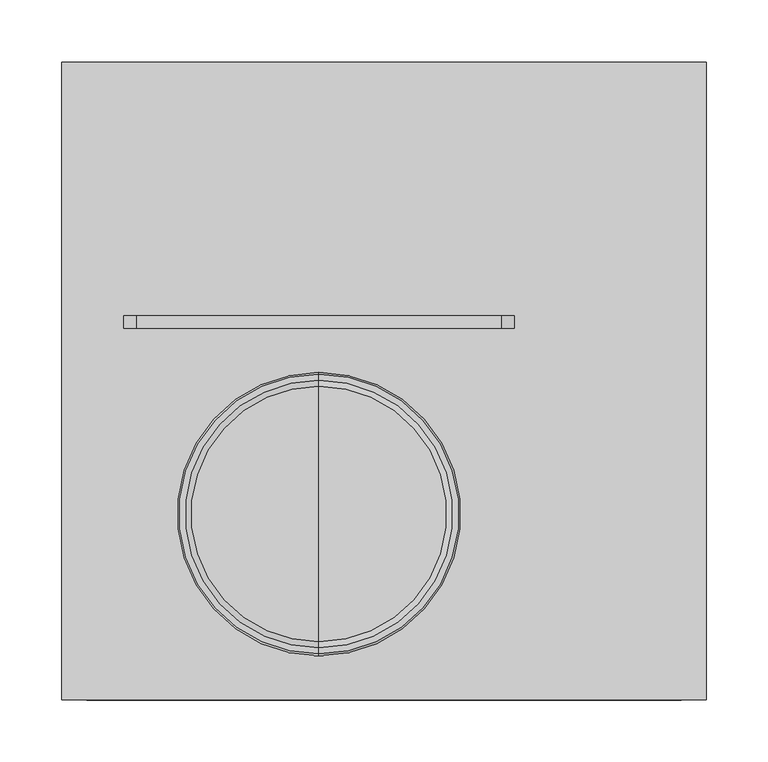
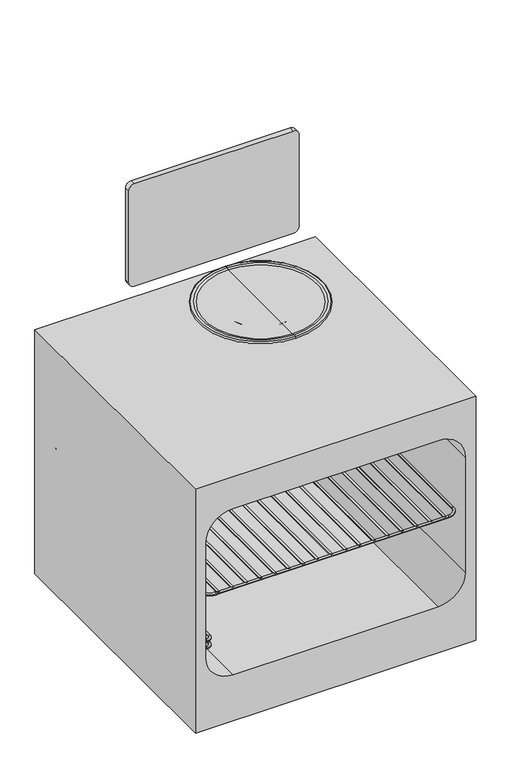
"""IFC4 building model written with IfcOpenShell, lengths in millimetres: proxy geometry, Horno_-_Microondas__Oven_-_Microwave_16796 : Horno_-_Microondas__Oven_-_Microwave_16796."""

from ifc_helpers import new_model, si_unit, point, frame, frame_2d, origin, place, context, project, spatial, polyline, circle_curve, ellipse_curve, trimmed, segment, composite_curve, outline, extrude, source, transform, mapped, element, save
from ifc_brep_helpers import plane_surface, cylinder_surface, revolved_surface, advanced_brep


def specialty_equipment_b5bd31df(model_context):
    return source(origin(), model_context, "Body", "SolidModel", [
        advanced_brep(
        [(-52.5, 215.0, 692.0), (-52.5, 95.0, 692.0), (-52.5, 155.0, 692.0), (-52.5, 155.0, 700.2581577), (-52.5, 51.9312725, 700.2581577), (-52.5, 258.0687275, 700.2581577), (-52.5, 47.1016434, 701.552253), (-52.5, 262.8983566, 701.552253), (-52.5, 42.1016434, 701.552253), (-52.5, 267.8983566, 701.552253), (-52.5, 42.1016434, 697.6923638), (-52.5, 267.8983566, 697.6923638), (-52.5, 50.1510419, 695.5355339), (-52.5, 259.8489581, 695.5355339), (-52.5, 87.0590608, 695.5355339), (-52.5, 222.9409392, 695.5355339)],
        [
            (0, 1, circle_curve(frame((-52.5, 155.0, 692.0), z_axis=(0.0, 0.0, -1.0), x_axis=(0.0, -1.0, 0.0)), 60.0)),
            (1, 2),
            (2, 0),
            (1, 0, circle_curve(frame((-52.5, 155.0, 692.0), z_axis=(0.0, 0.0, -1.0), x_axis=(0.0, -1.0, 0.0)), 60.0)),
            (3, 4),
            (4, 5, circle_curve(frame((-52.5, 155.0, 700.2581577), z_axis=(0.0, 0.0, 1.0), x_axis=(0.0, -1.0, 0.0)), 103.0687275)),
            (5, 3),
            (5, 4, circle_curve(frame((-52.5, 155.0, 700.2581577), z_axis=(0.0, 0.0, 1.0), x_axis=(0.0, -1.0, 0.0)), 103.0687275)),
            (4, 6),
            (6, 7, circle_curve(frame((-52.5, 155.0, 701.552253), z_axis=(0.0, 0.0, 1.0), x_axis=(0.0, -1.0, 0.0)), 107.8983566)),
            (7, 5),
            (7, 6, circle_curve(frame((-52.5, 155.0, 701.552253), z_axis=(0.0, 0.0, 1.0), x_axis=(0.0, -1.0, 0.0)), 107.8983566)),
            (6, 8),
            (8, 9, circle_curve(frame((-52.5, 155.0, 701.552253), z_axis=(0.0, 0.0, 1.0), x_axis=(0.0, -1.0, 0.0)), 112.8983566)),
            (9, 7),
            (9, 8, circle_curve(frame((-52.5, 155.0, 701.552253), z_axis=(0.0, 0.0, 1.0), x_axis=(0.0, -1.0, 0.0)), 112.8983566)),
            (8, 10, circle_curve(frame((-52.5, 42.6187705, 699.6223084), z_axis=(1.0, 0.0, 0.0), x_axis=(0.0, 1.0, 0.0)), 1.9980257)),
            (10, 11, circle_curve(frame((-52.5, 155.0, 697.6923638), z_axis=(0.0, 0.0, 1.0), x_axis=(0.0, -1.0, 0.0)), 112.8983566)),
            (11, 9, circle_curve(frame((-52.5, 267.3812295, 699.6223084), z_axis=(1.0, 0.0, 0.0), x_axis=(0.0, -1.0, 0.0)), 1.9980257)),
            (11, 10, circle_curve(frame((-52.5, 155.0, 697.6923638), z_axis=(0.0, 0.0, 1.0), x_axis=(0.0, -1.0, 0.0)), 112.8983566)),
            (10, 12),
            (12, 13, circle_curve(frame((-52.5, 155.0, 695.5355339), z_axis=(0.0, 0.0, 1.0), x_axis=(0.0, -1.0, 0.0)), 104.8489581)),
            (13, 11),
            (13, 12, circle_curve(frame((-52.5, 155.0, 695.5355339), z_axis=(0.0, 0.0, 1.0), x_axis=(0.0, -1.0, 0.0)), 104.8489581)),
            (12, 14),
            (14, 15, circle_curve(frame((-52.5, 155.0, 695.5355339), z_axis=(0.0, 0.0, 1.0), x_axis=(0.0, -1.0, 0.0)), 67.9409392)),
            (15, 13),
            (15, 14, circle_curve(frame((-52.5, 155.0, 695.5355339), z_axis=(0.0, 0.0, 1.0), x_axis=(0.0, -1.0, 0.0)), 67.9409392)),
            (14, 1, circle_curve(frame((-52.5, 86.7283772, 684.1072186), z_axis=(-1.0, 0.0, 0.0), x_axis=(0.0, 1.0, 0.0)), 11.4330986)),
            (0, 15, circle_curve(frame((-52.5, 223.2716228, 684.1072186), z_axis=(-1.0, 0.0, 0.0), x_axis=(0.0, -1.0, 0.0)), 11.4330986)),
        ],
        [
            plane_surface(frame((-52.5, 155.0, 692.0), z_axis=(0.0, 0.0, -1.0), x_axis=(0.0, -1.0, 0.0))),
            plane_surface(frame((-52.5, 155.0, 700.2581577), z_axis=(0.0, 0.0, 1.0), x_axis=(0.0, -1.0, 0.0))),
            revolved_surface(polyline([(-52.5, 47.1016434, 701.552253), (-52.5, 51.9312725, 700.2581577)]), (-52.5, 155.0, 912.0), (0.0, 0.0, 1.0)),
            plane_surface(frame((-52.5, 155.0, 701.552253), z_axis=(0.0, 0.0, 1.0), x_axis=(0.0, -1.0, 0.0))),
            revolved_surface(trimmed(ellipse_curve(frame((-52.5, 42.6187705, 699.6223084), z_axis=(-1.0, 0.0, 0.0), x_axis=(0.0, 1.0, 0.0)), 1.9980257, 1.9980257), [point((-52.5, 42.1016434, 697.6923638))], [point((-52.5, 42.1016434, 701.552253))], True, "CARTESIAN"), (-52.5, 155.0, 912.0), (0.0, 0.0, 1.0)),
            revolved_surface(polyline([(-52.5, 50.1510419, 695.5355339), (-52.5, 42.1016434, 697.6923638)]), (-52.5, 155.0, 912.0), (0.0, 0.0, 1.0)),
            plane_surface(frame((-52.5, 155.0, 695.5355339), z_axis=(0.0, 0.0, -1.0), x_axis=(0.0, -1.0, 0.0))),
            revolved_surface(trimmed(ellipse_curve(frame((-52.5, 86.7283772, 684.1072186), z_axis=(1.0, 0.0, 0.0), x_axis=(0.0, 1.0, 0.0)), 11.4330986, 11.4330986), [point((-52.5, 95.0, 692.0))], [point((-52.5, 87.0590608, 695.5355339))], True, "CARTESIAN"), (-52.5, 155.0, 912.0), (0.0, 0.0, 1.0)),
        ],
        [
            (0, [[1, 2, 3]]),
            (0, [[4, -3, -2]]),
            (1, [[5, 6, 7]]),
            (1, [[-7, 8, -5]]),
            (2, [[-6, 9, 10, 11]]),
            (2, [[-8, -11, 12, -9]]),
            (3, [[-10, 13, 14, 15]]),
            (3, [[-12, -15, 16, -13]]),
            (4, [[-14, 17, 18, 19]]),
            (4, [[-16, -19, 20, -17]]),
            (5, [[-18, 21, 22, 23]]),
            (5, [[-20, -23, 24, -21]]),
            (6, [[-22, 25, 26, 27]]),
            (6, [[-24, -27, 28, -25]]),
            (7, [[-26, 29, -1, 30]]),
            (7, [[-28, -30, -4, -29]]),
        ],
    ),
        extrude(outline(composite_curve([segment(trimmed(circle_curve(frame_2d((882.0, -200.0)), 10.0), [point((892.0, -200.0))], [point((882.0, -210.0))], False, "CARTESIAN"), True, "CONTINUOUS"), segment(polyline([(882.0, -210.0), (702.0, -210.0)]), True, "CONTINUOUS"), segment(trimmed(circle_curve(frame_2d((702.0, -200.0)), 10.0), [point((702.0, -210.0))], [point((692.0, -200.0))], False, "CARTESIAN"), True, "CONTINUOUS"), segment(polyline([(692.0, -200.0), (692.0, 95.0)]), True, "CONTINUOUS"), segment(trimmed(circle_curve(frame_2d((702.0, 95.0)), 10.0), [point((692.0, 95.0))], [point((702.0, 105.0))], False, "CARTESIAN"), True, "CONTINUOUS"), segment(polyline([(702.0, 105.0), (882.0, 105.0)]), True, "CONTINUOUS"), segment(trimmed(circle_curve(frame_2d((882.0, 95.0)), 10.0), [point((882.0, 105.0))], [point((892.0, 95.0))], False, "CARTESIAN"), True, "CONTINUOUS"), segment(polyline([(892.0, 95.0), (892.0, -200.0)]), True, "CONTINUOUS")], self_intersect=False)), frame((0.0, 305.0, 0.0), z_axis=(0.0, 1.0, 0.0), x_axis=(0.0, 0.0, 1.0)), (0.0, 0.0, 1.0), 10.0),
        extrude(outline(polyline([(20.0, 260.0), (497.0, 260.0), (497.0, -260.0), (20.0, -260.0), (20.0, 260.0)]), holes=[composite_curve([segment(polyline([(160.0, -240.0), (385.0, -240.0)]), True, "CONTINUOUS"), segment(trimmed(circle_curve(frame_2d((385.0, -190.0)), 50.0), [point((385.0, -240.0))], [point((435.0, -190.0))], True, "CARTESIAN"), True, "CONTINUOUS"), segment(polyline([(435.0, -190.0), (435.0, 190.0)]), True, "CONTINUOUS"), segment(trimmed(circle_curve(frame_2d((385.0, 190.0)), 50.0), [point((435.0, 190.0))], [point((385.0, 240.0))], True, "CARTESIAN"), True, "CONTINUOUS"), segment(polyline([(385.0, 240.0), (160.0, 240.0)]), True, "CONTINUOUS"), segment(trimmed(circle_curve(frame_2d((160.0, 190.0)), 50.0), [point((160.0, 240.0))], [point((110.0, 190.0))], True, "CARTESIAN"), True, "CONTINUOUS"), segment(polyline([(110.0, 190.0), (110.0, -190.0)]), True, "CONTINUOUS"), segment(trimmed(circle_curve(frame_2d((160.0, -190.0)), 50.0), [point((110.0, -190.0))], [point((160.0, -240.0))], True, "CARTESIAN"), True, "CONTINUOUS")], self_intersect=False)]), frame((0.0, 5.0, 0.0), z_axis=(0.0, 1.0, 0.0), x_axis=(0.0, 0.0, 1.0)), (0.0, 0.0, 1.0), 515.0),
        extrude(outline(composite_curve([segment(trimmed(circle_curve(frame_2d((160.0, -190.0)), 50.0), [point((160.0, -240.0))], [point((110.0, -190.0))], False, "CARTESIAN"), True, "CONTINUOUS"), segment(polyline([(110.0, -190.0), (110.0, 190.0)]), True, "CONTINUOUS"), segment(trimmed(circle_curve(frame_2d((160.0, 190.0)), 50.0), [point((110.0, 190.0))], [point((160.0, 240.0))], False, "CARTESIAN"), True, "CONTINUOUS"), segment(polyline([(160.0, 240.0), (385.0, 240.0)]), True, "CONTINUOUS"), segment(trimmed(circle_curve(frame_2d((385.0, 190.0)), 50.0), [point((385.0, 240.0))], [point((435.0, 190.0))], False, "CARTESIAN"), True, "CONTINUOUS"), segment(polyline([(435.0, 190.0), (435.0, -190.0)]), True, "CONTINUOUS"), segment(trimmed(circle_curve(frame_2d((385.0, -190.0)), 50.0), [point((435.0, -190.0))], [point((385.0, -240.0))], False, "CARTESIAN"), True, "CONTINUOUS"), segment(polyline([(385.0, -240.0), (160.0, -240.0)]), True, "CONTINUOUS")], self_intersect=False), holes=[composite_curve([segment(trimmed(circle_curve(frame_2d((272.0, 0.0)), 60.0), [point((272.0, -60.0))], [point((272.0, 60.0))], True, "CARTESIAN"), True, "CONTINUOUS"), segment(trimmed(circle_curve(frame_2d((272.0, 0.0)), 60.0), [point((272.0, 60.0))], [point((272.0, -60.0))], True, "CARTESIAN"), True, "CONTINUOUS")], self_intersect=False)]), frame((0.0, 515.0, 0.0), z_axis=(0.0, 1.0, 0.0), x_axis=(0.0, 0.0, 1.0)), (0.0, 0.0, 1.0), 5.0),
        extrude(outline(composite_curve([segment(trimmed(circle_curve(frame_2d((272.0, 0.0)), 58.0), [point((272.0, -58.0))], [point((272.0, 58.0))], False, "CARTESIAN"), True, "CONTINUOUS"), segment(trimmed(circle_curve(frame_2d((272.0, 0.0)), 58.0), [point((272.0, 58.0))], [point((272.0, -58.0))], False, "CARTESIAN"), True, "CONTINUOUS")], self_intersect=False), holes=[composite_curve([segment(trimmed(circle_curve(frame_2d((272.0, 0.0)), 40.0), [point((272.0, -40.0))], [point((272.0, 40.0))], True, "CARTESIAN"), True, "CONTINUOUS"), segment(trimmed(circle_curve(frame_2d((272.0, 0.0)), 40.0), [point((272.0, 40.0))], [point((272.0, -40.0))], True, "CARTESIAN"), True, "CONTINUOUS")], self_intersect=False)]), frame((0.0, 515.0, 0.0), z_axis=(0.0, 1.0, 0.0), x_axis=(0.0, 0.0, 1.0)), (0.0, 0.0, 1.0), 5.0),
        extrude(outline(composite_curve([segment(polyline([(234.0131602, -1.0), (244.0178628, -1.0)]), True, "CONTINUOUS"), segment(trimmed(circle_curve(frame_2d((272.0, 0.0)), 28.0), [point((244.0178628, -1.0))], [point((251.5065343, -19.0792522))], True, "CARTESIAN"), True, "CONTINUOUS"), segment(polyline([(251.5065343, -19.0792522), (244.4321412, -26.1536453)]), True, "CONTINUOUS"), segment(trimmed(circle_curve(frame_2d((272.0, 0.0)), 38.0), [point((244.4321412, -26.1536453))], [point((234.0131602, -1.0))], False, "CARTESIAN"), True, "CONTINUOUS")], self_intersect=False)), frame((0.0, 515.0, 0.0), z_axis=(0.0, 1.0, 0.0), x_axis=(0.0, 0.0, 1.0)), (0.0, 0.0, 1.0), 5.0),
        extrude(outline(composite_curve([segment(trimmed(circle_curve(frame_2d((272.0, 0.0)), 28.0), [point((299.9821372, 1.0))], [point((292.4934657, 19.0792522))], True, "CARTESIAN"), True, "CONTINUOUS"), segment(polyline([(292.4934657, 19.0792522), (299.5678588, 26.1536453)]), True, "CONTINUOUS"), segment(trimmed(circle_curve(frame_2d((272.0, 0.0)), 38.0), [point((299.5678588, 26.1536453))], [point((309.9868398, 1.0))], False, "CARTESIAN"), True, "CONTINUOUS"), segment(polyline([(309.9868398, 1.0), (299.9821372, 1.0)]), True, "CONTINUOUS")], self_intersect=False)), frame((0.0, 515.0, 0.0), z_axis=(0.0, 1.0, 0.0), x_axis=(0.0, 0.0, 1.0)), (0.0, 0.0, 1.0), 5.0),
        extrude(outline(composite_curve([segment(polyline([(246.0192379, -1.0), (269.5857864, -1.0), (252.9217201, -17.6640663)]), True, "CONTINUOUS"), segment(trimmed(circle_curve(frame_2d((272.0, 0.0)), 26.0), [point((252.9217201, -17.6640663))], [point((246.0192379, -1.0))], False, "CARTESIAN"), True, "CONTINUOUS")], self_intersect=False)), frame((0.0, 515.0, 0.0), z_axis=(0.0, 1.0, 0.0), x_axis=(0.0, 0.0, 1.0)), (0.0, 0.0, 1.0), 5.0),
        extrude(outline(composite_curve([segment(trimmed(circle_curve(frame_2d((272.0, 0.0)), 28.0), [point((273.0, -27.9821372))], [point((291.0792522, -20.4934657))], True, "CARTESIAN"), True, "CONTINUOUS"), segment(polyline([(291.0792522, -20.4934657), (298.1536453, -27.5678588)]), True, "CONTINUOUS"), segment(trimmed(circle_curve(frame_2d((272.0, 0.0)), 38.0), [point((298.1536453, -27.5678588))], [point((273.0, -37.9868398))], False, "CARTESIAN"), True, "CONTINUOUS"), segment(polyline([(273.0, -37.9868398), (273.0, -27.9821372)]), True, "CONTINUOUS")], self_intersect=False)), frame((0.0, 515.0, 0.0), z_axis=(0.0, 1.0, 0.0), x_axis=(0.0, 0.0, 1.0)), (0.0, 0.0, 1.0), 5.0),
        extrude(outline(composite_curve([segment(polyline([(271.0, -27.9821372), (271.0, -37.9868398)]), True, "CONTINUOUS"), segment(trimmed(circle_curve(frame_2d((272.0, 0.0)), 38.0), [point((271.0, -37.9868398))], [point((245.8463547, -27.5678588))], False, "CARTESIAN"), True, "CONTINUOUS"), segment(polyline([(245.8463547, -27.5678588), (252.9207478, -20.4934657)]), True, "CONTINUOUS"), segment(trimmed(circle_curve(frame_2d((272.0, 0.0)), 28.0), [point((252.9207478, -20.4934657))], [point((271.0, -27.9821372))], True, "CARTESIAN"), True, "CONTINUOUS")], self_intersect=False)), frame((0.0, 515.0, 0.0), z_axis=(0.0, 1.0, 0.0), x_axis=(0.0, 0.0, 1.0)), (0.0, 0.0, 1.0), 5.0),
        extrude(outline(composite_curve([segment(polyline([(289.6640663, 19.0782799), (273.0, 2.4142136), (273.0, 25.9807621)]), True, "CONTINUOUS"), segment(trimmed(circle_curve(frame_2d((272.0, 0.0)), 26.0), [point((273.0, 25.9807621))], [point((289.6640663, 19.0782799))], False, "CARTESIAN"), True, "CONTINUOUS")], self_intersect=False)), frame((0.0, 515.0, 0.0), z_axis=(0.0, 1.0, 0.0), x_axis=(0.0, 0.0, 1.0)), (0.0, 0.0, 1.0), 5.0),
        extrude(outline(composite_curve([segment(trimmed(circle_curve(frame_2d((272.0, 0.0)), 26.0), [point((291.0782799, 17.6640663))], [point((297.9807621, 1.0))], False, "CARTESIAN"), True, "CONTINUOUS"), segment(polyline([(297.9807621, 1.0), (274.4142136, 1.0), (291.0782799, 17.6640663)]), True, "CONTINUOUS")], self_intersect=False)), frame((0.0, 515.0, 0.0), z_axis=(0.0, 1.0, 0.0), x_axis=(0.0, 0.0, 1.0)), (0.0, 0.0, 1.0), 5.0),
        extrude(outline(composite_curve([segment(polyline([(252.9207478, 20.4934657), (245.8463547, 27.5678588)]), True, "CONTINUOUS"), segment(trimmed(circle_curve(frame_2d((272.0, 0.0)), 38.0), [point((245.8463547, 27.5678588))], [point((271.0, 37.9868398))], False, "CARTESIAN"), True, "CONTINUOUS"), segment(polyline([(271.0, 37.9868398), (271.0, 27.9821372)]), True, "CONTINUOUS"), segment(trimmed(circle_curve(frame_2d((272.0, 0.0)), 28.0), [point((271.0, 27.9821372))], [point((252.9207478, 20.4934657))], True, "CARTESIAN"), True, "CONTINUOUS")], self_intersect=False)), frame((0.0, 515.0, 0.0), z_axis=(0.0, 1.0, 0.0), x_axis=(0.0, 0.0, 1.0)), (0.0, 0.0, 1.0), 5.0),
        extrude(outline(composite_curve([segment(trimmed(circle_curve(frame_2d((272.0, 0.0)), 28.0), [point((251.5065343, 19.0792522))], [point((244.0178628, 1.0))], True, "CARTESIAN"), True, "CONTINUOUS"), segment(polyline([(244.0178628, 1.0), (234.0131602, 1.0)]), True, "CONTINUOUS"), segment(trimmed(circle_curve(frame_2d((272.0, 0.0)), 38.0), [point((234.0131602, 1.0))], [point((244.4321412, 26.1536453))], False, "CARTESIAN"), True, "CONTINUOUS"), segment(polyline([(244.4321412, 26.1536453), (251.5065343, 19.0792522)]), True, "CONTINUOUS")], self_intersect=False)), frame((0.0, 515.0, 0.0), z_axis=(0.0, 1.0, 0.0), x_axis=(0.0, 0.0, 1.0)), (0.0, 0.0, 1.0), 5.0),
        extrude(outline(composite_curve([segment(polyline([(271.0, 25.9807621), (271.0, 2.4142136), (254.3359337, 19.0782799)]), True, "CONTINUOUS"), segment(trimmed(circle_curve(frame_2d((272.0, 0.0)), 26.0), [point((254.3359337, 19.0782799))], [point((271.0, 25.9807621))], False, "CARTESIAN"), True, "CONTINUOUS")], self_intersect=False)), frame((0.0, 515.0, 0.0), z_axis=(0.0, 1.0, 0.0), x_axis=(0.0, 0.0, 1.0)), (0.0, 0.0, 1.0), 5.0),
        extrude(outline(composite_curve([segment(polyline([(291.0782799, -17.6640663), (274.4142136, -1.0), (297.9807621, -1.0)]), True, "CONTINUOUS"), segment(trimmed(circle_curve(frame_2d((272.0, 0.0)), 26.0), [point((297.9807621, -1.0))], [point((291.0782799, -17.6640663))], False, "CARTESIAN"), True, "CONTINUOUS")], self_intersect=False)), frame((0.0, 515.0, 0.0), z_axis=(0.0, 1.0, 0.0), x_axis=(0.0, 0.0, 1.0)), (0.0, 0.0, 1.0), 5.0),
        extrude(outline(composite_curve([segment(trimmed(circle_curve(frame_2d((272.0, 0.0)), 26.0), [point((246.0192379, 1.0))], [point((252.9217201, 17.6640663))], False, "CARTESIAN"), True, "CONTINUOUS"), segment(polyline([(252.9217201, 17.6640663), (269.5857864, 1.0), (246.0192379, 1.0)]), True, "CONTINUOUS")], self_intersect=False)), frame((0.0, 515.0, 0.0), z_axis=(0.0, 1.0, 0.0), x_axis=(0.0, 0.0, 1.0)), (0.0, 0.0, 1.0), 5.0),
        extrude(outline(composite_curve([segment(trimmed(circle_curve(frame_2d((272.0, 0.0)), 26.0), [point((289.6640663, -19.0782799))], [point((273.0, -25.9807621))], False, "CARTESIAN"), True, "CONTINUOUS"), segment(polyline([(273.0, -25.9807621), (273.0, -2.4142136), (289.6640663, -19.0782799)]), True, "CONTINUOUS")], self_intersect=False)), frame((0.0, 515.0, 0.0), z_axis=(0.0, 1.0, 0.0), x_axis=(0.0, 0.0, 1.0)), (0.0, 0.0, 1.0), 5.0),
        extrude(outline(composite_curve([segment(polyline([(299.9821372, -1.0), (309.9868398, -1.0)]), True, "CONTINUOUS"), segment(trimmed(circle_curve(frame_2d((272.0, 0.0)), 38.0), [point((309.9868398, -1.0))], [point((299.5678588, -26.1536453))], False, "CARTESIAN"), True, "CONTINUOUS"), segment(polyline([(299.5678588, -26.1536453), (292.4934657, -19.0792522)]), True, "CONTINUOUS"), segment(trimmed(circle_curve(frame_2d((272.0, 0.0)), 28.0), [point((292.4934657, -19.0792522))], [point((299.9821372, -1.0))], True, "CARTESIAN"), True, "CONTINUOUS")], self_intersect=False)), frame((0.0, 515.0, 0.0), z_axis=(0.0, 1.0, 0.0), x_axis=(0.0, 0.0, 1.0)), (0.0, 0.0, 1.0), 5.0),
        extrude(outline(composite_curve([segment(polyline([(298.1536453, 27.5678588), (291.0792522, 20.4934657)]), True, "CONTINUOUS"), segment(trimmed(circle_curve(frame_2d((272.0, 0.0)), 28.0), [point((291.0792522, 20.4934657))], [point((273.0, 27.9821372))], True, "CARTESIAN"), True, "CONTINUOUS"), segment(polyline([(273.0, 27.9821372), (273.0, 37.9868398)]), True, "CONTINUOUS"), segment(trimmed(circle_curve(frame_2d((272.0, 0.0)), 38.0), [point((273.0, 37.9868398))], [point((298.1536453, 27.5678588))], False, "CARTESIAN"), True, "CONTINUOUS")], self_intersect=False)), frame((0.0, 515.0, 0.0), z_axis=(0.0, 1.0, 0.0), x_axis=(0.0, 0.0, 1.0)), (0.0, 0.0, 1.0), 5.0),
        extrude(outline(composite_curve([segment(polyline([(254.3359337, -19.0782799), (271.0, -2.4142136), (271.0, -25.9807621)]), True, "CONTINUOUS"), segment(trimmed(circle_curve(frame_2d((272.0, 0.0)), 26.0), [point((271.0, -25.9807621))], [point((254.3359337, -19.0782799))], False, "CARTESIAN"), True, "CONTINUOUS")], self_intersect=False)), frame((0.0, 515.0, 0.0), z_axis=(0.0, 1.0, 0.0), x_axis=(0.0, 0.0, 1.0)), (0.0, 0.0, 1.0), 5.0),
        extrude(outline(composite_curve([segment(trimmed(circle_curve(frame_2d((270.1941764, -209.7777778)), 2.0), [point((270.1941764, -211.7777778))], [point((270.1941764, -207.7777778))], False, "CARTESIAN"), True, "CONTINUOUS"), segment(trimmed(circle_curve(frame_2d((270.1941764, -209.7777778)), 2.0), [point((270.1941764, -207.7777778))], [point((270.1941764, -211.7777778))], False, "CARTESIAN"), True, "CONTINUOUS")], self_intersect=False)), frame((0.0, 16.6373781, 0.0), z_axis=(0.0, 1.0, 0.0), x_axis=(0.0, 0.0, 1.0)), (0.0, 0.0, 1.0), 491.5234434),
        extrude(outline(composite_curve([segment(trimmed(circle_curve(frame_2d((270.1941764, -183.5555556)), 2.0), [point((270.1941764, -185.5555556))], [point((270.1941764, -181.5555556))], False, "CARTESIAN"), True, "CONTINUOUS"), segment(trimmed(circle_curve(frame_2d((270.1941764, -183.5555556)), 2.0), [point((270.1941764, -181.5555556))], [point((270.1941764, -185.5555556))], False, "CARTESIAN"), True, "CONTINUOUS")], self_intersect=False)), frame((0.0, 16.6373781, 0.0), z_axis=(0.0, 1.0, 0.0), x_axis=(0.0, 0.0, 1.0)), (0.0, 0.0, 1.0), 491.5234434),
        extrude(outline(composite_curve([segment(trimmed(circle_curve(frame_2d((270.1941764, -157.3333333)), 2.0), [point((270.1941764, -159.3333333))], [point((270.1941764, -155.3333333))], False, "CARTESIAN"), True, "CONTINUOUS"), segment(trimmed(circle_curve(frame_2d((270.1941764, -157.3333333)), 2.0), [point((270.1941764, -155.3333333))], [point((270.1941764, -159.3333333))], False, "CARTESIAN"), True, "CONTINUOUS")], self_intersect=False)), frame((0.0, 16.6373781, 0.0), z_axis=(0.0, 1.0, 0.0), x_axis=(0.0, 0.0, 1.0)), (0.0, 0.0, 1.0), 491.5234434),
        extrude(outline(composite_curve([segment(trimmed(circle_curve(frame_2d((270.1941764, -131.1111111)), 2.0), [point((270.1941764, -133.1111111))], [point((270.1941764, -129.1111111))], False, "CARTESIAN"), True, "CONTINUOUS"), segment(trimmed(circle_curve(frame_2d((270.1941764, -131.1111111)), 2.0), [point((270.1941764, -129.1111111))], [point((270.1941764, -133.1111111))], False, "CARTESIAN"), True, "CONTINUOUS")], self_intersect=False)), frame((0.0, 16.6373781, 0.0), z_axis=(0.0, 1.0, 0.0), x_axis=(0.0, 0.0, 1.0)), (0.0, 0.0, 1.0), 491.5234434),
        extrude(outline(composite_curve([segment(trimmed(circle_curve(frame_2d((270.1941764, -104.8888889)), 2.0), [point((270.1941764, -106.8888889))], [point((270.1941764, -102.8888889))], False, "CARTESIAN"), True, "CONTINUOUS"), segment(trimmed(circle_curve(frame_2d((270.1941764, -104.8888889)), 2.0), [point((270.1941764, -102.8888889))], [point((270.1941764, -106.8888889))], False, "CARTESIAN"), True, "CONTINUOUS")], self_intersect=False)), frame((0.0, 16.6373781, 0.0), z_axis=(0.0, 1.0, 0.0), x_axis=(0.0, 0.0, 1.0)), (0.0, 0.0, 1.0), 491.5234434),
        extrude(outline(composite_curve([segment(trimmed(circle_curve(frame_2d((270.1941764, -78.6666667)), 2.0), [point((270.1941764, -80.6666667))], [point((270.1941764, -76.6666667))], False, "CARTESIAN"), True, "CONTINUOUS"), segment(trimmed(circle_curve(frame_2d((270.1941764, -78.6666667)), 2.0), [point((270.1941764, -76.6666667))], [point((270.1941764, -80.6666667))], False, "CARTESIAN"), True, "CONTINUOUS")], self_intersect=False)), frame((0.0, 16.6373781, 0.0), z_axis=(0.0, 1.0, 0.0), x_axis=(0.0, 0.0, 1.0)), (0.0, 0.0, 1.0), 491.5234434),
        extrude(outline(composite_curve([segment(trimmed(circle_curve(frame_2d((270.1941764, -52.4444444)), 2.0), [point((270.1941764, -54.4444444))], [point((270.1941764, -50.4444444))], False, "CARTESIAN"), True, "CONTINUOUS"), segment(trimmed(circle_curve(frame_2d((270.1941764, -52.4444444)), 2.0), [point((270.1941764, -50.4444444))], [point((270.1941764, -54.4444444))], False, "CARTESIAN"), True, "CONTINUOUS")], self_intersect=False)), frame((0.0, 16.6373781, 0.0), z_axis=(0.0, 1.0, 0.0), x_axis=(0.0, 0.0, 1.0)), (0.0, 0.0, 1.0), 491.5234434),
        extrude(outline(composite_curve([segment(trimmed(circle_curve(frame_2d((270.1941764, -26.2222222)), 2.0), [point((270.1941764, -28.2222222))], [point((270.1941764, -24.2222222))], False, "CARTESIAN"), True, "CONTINUOUS"), segment(trimmed(circle_curve(frame_2d((270.1941764, -26.2222222)), 2.0), [point((270.1941764, -24.2222222))], [point((270.1941764, -28.2222222))], False, "CARTESIAN"), True, "CONTINUOUS")], self_intersect=False)), frame((0.0, 16.6373781, 0.0), z_axis=(0.0, 1.0, 0.0), x_axis=(0.0, 0.0, 1.0)), (0.0, 0.0, 1.0), 491.5234434),
        extrude(outline(composite_curve([segment(trimmed(circle_curve(frame_2d((270.1941764, 0.0)), 2.0), [point((270.1941764, -2.0))], [point((270.1941764, 2.0))], False, "CARTESIAN"), True, "CONTINUOUS"), segment(trimmed(circle_curve(frame_2d((270.1941764, 0.0)), 2.0), [point((270.1941764, 2.0))], [point((270.1941764, -2.0))], False, "CARTESIAN"), True, "CONTINUOUS")], self_intersect=False)), frame((0.0, 16.6373781, 0.0), z_axis=(0.0, 1.0, 0.0), x_axis=(0.0, 0.0, 1.0)), (0.0, 0.0, 1.0), 491.5234434),
        extrude(outline(composite_curve([segment(trimmed(circle_curve(frame_2d((270.1941764, 26.2222222)), 2.0), [point((270.1941764, 24.2222222))], [point((270.1941764, 28.2222222))], False, "CARTESIAN"), True, "CONTINUOUS"), segment(trimmed(circle_curve(frame_2d((270.1941764, 26.2222222)), 2.0), [point((270.1941764, 28.2222222))], [point((270.1941764, 24.2222222))], False, "CARTESIAN"), True, "CONTINUOUS")], self_intersect=False)), frame((0.0, 16.6373781, 0.0), z_axis=(0.0, 1.0, 0.0), x_axis=(0.0, 0.0, 1.0)), (0.0, 0.0, 1.0), 491.5234434),
        extrude(outline(composite_curve([segment(trimmed(circle_curve(frame_2d((270.1941764, 52.4444444)), 2.0), [point((270.1941764, 50.4444444))], [point((270.1941764, 54.4444444))], False, "CARTESIAN"), True, "CONTINUOUS"), segment(trimmed(circle_curve(frame_2d((270.1941764, 52.4444444)), 2.0), [point((270.1941764, 54.4444444))], [point((270.1941764, 50.4444444))], False, "CARTESIAN"), True, "CONTINUOUS")], self_intersect=False)), frame((0.0, 16.6373781, 0.0), z_axis=(0.0, 1.0, 0.0), x_axis=(0.0, 0.0, 1.0)), (0.0, 0.0, 1.0), 491.5234434),
        extrude(outline(composite_curve([segment(trimmed(circle_curve(frame_2d((270.1941764, 78.6666667)), 2.0), [point((270.1941764, 76.6666667))], [point((270.1941764, 80.6666667))], False, "CARTESIAN"), True, "CONTINUOUS"), segment(trimmed(circle_curve(frame_2d((270.1941764, 78.6666667)), 2.0), [point((270.1941764, 80.6666667))], [point((270.1941764, 76.6666667))], False, "CARTESIAN"), True, "CONTINUOUS")], self_intersect=False)), frame((0.0, 16.6373781, 0.0), z_axis=(0.0, 1.0, 0.0), x_axis=(0.0, 0.0, 1.0)), (0.0, 0.0, 1.0), 491.5234434),
        extrude(outline(composite_curve([segment(trimmed(circle_curve(frame_2d((270.1941764, 104.8888889)), 2.0), [point((270.1941764, 102.8888889))], [point((270.1941764, 106.8888889))], False, "CARTESIAN"), True, "CONTINUOUS"), segment(trimmed(circle_curve(frame_2d((270.1941764, 104.8888889)), 2.0), [point((270.1941764, 106.8888889))], [point((270.1941764, 102.8888889))], False, "CARTESIAN"), True, "CONTINUOUS")], self_intersect=False)), frame((0.0, 16.6373781, 0.0), z_axis=(0.0, 1.0, 0.0), x_axis=(0.0, 0.0, 1.0)), (0.0, 0.0, 1.0), 491.5234434),
        extrude(outline(composite_curve([segment(trimmed(circle_curve(frame_2d((270.1941764, 131.1111111)), 2.0), [point((270.1941764, 129.1111111))], [point((270.1941764, 133.1111111))], False, "CARTESIAN"), True, "CONTINUOUS"), segment(trimmed(circle_curve(frame_2d((270.1941764, 131.1111111)), 2.0), [point((270.1941764, 133.1111111))], [point((270.1941764, 129.1111111))], False, "CARTESIAN"), True, "CONTINUOUS")], self_intersect=False)), frame((0.0, 16.6373781, 0.0), z_axis=(0.0, 1.0, 0.0), x_axis=(0.0, 0.0, 1.0)), (0.0, 0.0, 1.0), 491.5234434),
        extrude(outline(composite_curve([segment(trimmed(circle_curve(frame_2d((270.1941764, 157.3333333)), 2.0), [point((270.1941764, 155.3333333))], [point((270.1941764, 159.3333333))], False, "CARTESIAN"), True, "CONTINUOUS"), segment(trimmed(circle_curve(frame_2d((270.1941764, 157.3333333)), 2.0), [point((270.1941764, 159.3333333))], [point((270.1941764, 155.3333333))], False, "CARTESIAN"), True, "CONTINUOUS")], self_intersect=False)), frame((0.0, 16.6373781, 0.0), z_axis=(0.0, 1.0, 0.0), x_axis=(0.0, 0.0, 1.0)), (0.0, 0.0, 1.0), 491.5234434),
        extrude(outline(composite_curve([segment(trimmed(circle_curve(frame_2d((270.1941764, 183.5555556)), 2.0), [point((270.1941764, 181.5555556))], [point((270.1941764, 185.5555556))], False, "CARTESIAN"), True, "CONTINUOUS"), segment(trimmed(circle_curve(frame_2d((270.1941764, 183.5555556)), 2.0), [point((270.1941764, 185.5555556))], [point((270.1941764, 181.5555556))], False, "CARTESIAN"), True, "CONTINUOUS")], self_intersect=False)), frame((0.0, 16.6373781, 0.0), z_axis=(0.0, 1.0, 0.0), x_axis=(0.0, 0.0, 1.0)), (0.0, 0.0, 1.0), 491.5234434),
        extrude(outline(composite_curve([segment(trimmed(circle_curve(frame_2d((270.1941764, 209.7777778)), 2.0), [point((270.1941764, 207.7777778))], [point((270.1941764, 211.7777778))], False, "CARTESIAN"), True, "CONTINUOUS"), segment(trimmed(circle_curve(frame_2d((270.1941764, 209.7777778)), 2.0), [point((270.1941764, 211.7777778))], [point((270.1941764, 207.7777778))], False, "CARTESIAN"), True, "CONTINUOUS")], self_intersect=False)), frame((0.0, 16.6373781, 0.0), z_axis=(0.0, 1.0, 0.0), x_axis=(0.0, 0.0, 1.0)), (0.0, 0.0, 1.0), 491.5234434),
        advanced_brep(
        [(-232.0, 35.0010353, 270.1597957), (-216.0, 19.0010353, 270.1597957), (-216.0, 15.0010353, 270.1597957), (-236.0, 35.0010353, 270.1597957), (-236.0, 490.0, 270.1597957), (-232.0, 490.0, 270.1597957), (-216.0, 506.0, 270.1597957), (-216.0, 510.0, 270.1597957), (216.0, 510.0, 270.1597957), (216.0, 506.0, 270.1597957), (232.0, 490.0, 270.1597957), (236.0, 490.0, 270.1597957), (236.0, 35.0010353, 270.1597957), (232.0, 35.0010353, 270.1597957), (216.0, 19.0010353, 270.1597957), (216.0, 15.0010353, 270.1597957)],
        [
            (0, 1, circle_curve(frame((-216.0, 35.0010353, 270.1597957), z_axis=(0.0, 0.0, 1.0), x_axis=(0.0, -1.0, 0.0)), 16.0)),
            (1, 2, circle_curve(frame((-216.0, 17.0010353, 270.1597957), z_axis=(-1.0, 0.0, 0.0), x_axis=(0.0, 1.0, 0.0)), 2.0)),
            (2, 3, circle_curve(frame((-216.0, 35.0010353, 270.1597957), z_axis=(0.0, 0.0, -1.0), x_axis=(0.0, -1.0, 0.0)), 20.0)),
            (3, 0, circle_curve(frame((-234.0, 35.0010353, 270.1597957), z_axis=(0.0, -1.0, 0.0), x_axis=(1.0, 0.0, 0.0)), 2.0)),
            (2, 1, circle_curve(frame((-216.0, 17.0010353, 270.1597957), z_axis=(-1.0, 0.0, 0.0), x_axis=(0.0, 1.0, 0.0)), 2.0)),
            (0, 3, circle_curve(frame((-234.0, 35.0010353, 270.1597957), z_axis=(0.0, -1.0, 0.0), x_axis=(1.0, 0.0, 0.0)), 2.0)),
            (3, 4),
            (4, 5, circle_curve(frame((-234.0, 490.0, 270.1597957), z_axis=(0.0, -1.0, 0.0), x_axis=(1.0, 0.0, 0.0)), 2.0)),
            (5, 0),
            (5, 4, circle_curve(frame((-234.0, 490.0, 270.1597957), z_axis=(0.0, -1.0, 0.0), x_axis=(1.0, 0.0, 0.0)), 2.0)),
            (6, 5, circle_curve(frame((-216.0, 490.0, 270.1597957), z_axis=(0.0, 0.0, 1.0), x_axis=(-1.0, 0.0, 0.0)), 16.0)),
            (4, 7, circle_curve(frame((-216.0, 490.0, 270.1597957), z_axis=(0.0, 0.0, -1.0), x_axis=(-1.0, 0.0, 0.0)), 20.0)),
            (7, 6, circle_curve(frame((-216.0, 508.0, 270.1597957), z_axis=(-1.0, 0.0, 0.0), x_axis=(0.0, -1.0, 0.0)), 2.0)),
            (6, 7, circle_curve(frame((-216.0, 508.0, 270.1597957), z_axis=(-1.0, 0.0, 0.0), x_axis=(0.0, -1.0, 0.0)), 2.0)),
            (7, 8),
            (8, 9, circle_curve(frame((216.0, 508.0, 270.1597957), z_axis=(-1.0, 0.0, 0.0), x_axis=(0.0, -1.0, 0.0)), 2.0)),
            (9, 6),
            (9, 8, circle_curve(frame((216.0, 508.0, 270.1597957), z_axis=(-1.0, 0.0, 0.0), x_axis=(0.0, -1.0, 0.0)), 2.0)),
            (10, 9, circle_curve(frame((216.0, 490.0, 270.1597957), z_axis=(0.0, 0.0, 1.0), x_axis=(0.0, 1.0, 0.0)), 16.0)),
            (8, 11, circle_curve(frame((216.0, 490.0, 270.1597957), z_axis=(0.0, 0.0, -1.0), x_axis=(0.0, 1.0, 0.0)), 20.0)),
            (11, 10, circle_curve(frame((234.0, 490.0, 270.1597957), z_axis=(0.0, 1.0, 0.0), x_axis=(-1.0, 0.0, 0.0)), 2.0)),
            (10, 11, circle_curve(frame((234.0, 490.0, 270.1597957), z_axis=(0.0, 1.0, 0.0), x_axis=(-1.0, 0.0, 0.0)), 2.0)),
            (11, 12),
            (12, 13, circle_curve(frame((234.0, 35.0010353, 270.1597957), z_axis=(0.0, 1.0, 0.0), x_axis=(-1.0, 0.0, 0.0)), 2.0)),
            (13, 10),
            (13, 12, circle_curve(frame((234.0, 35.0010353, 270.1597957), z_axis=(0.0, 1.0, 0.0), x_axis=(-1.0, 0.0, 0.0)), 2.0)),
            (14, 13, circle_curve(frame((216.0, 35.0010353, 270.1597957), z_axis=(0.0, 0.0, 1.0), x_axis=(1.0, 0.0, 0.0)), 16.0)),
            (12, 15, circle_curve(frame((216.0, 35.0010353, 270.1597957), z_axis=(0.0, 0.0, -1.0), x_axis=(1.0, 0.0, 0.0)), 20.0)),
            (15, 14, circle_curve(frame((216.0, 17.0010353, 270.1597957), z_axis=(1.0, 0.0, 0.0), x_axis=(0.0, 1.0, 0.0)), 2.0)),
            (14, 15, circle_curve(frame((216.0, 17.0010353, 270.1597957), z_axis=(1.0, 0.0, 0.0), x_axis=(0.0, 1.0, 0.0)), 2.0)),
            (15, 2),
            (1, 14),
        ],
        [
            revolved_surface(trimmed(ellipse_curve(frame((-216.0, 17.0010353, 270.1597957), z_axis=(1.0, 0.0, 0.0), x_axis=(0.0, 1.0, 0.0)), 2.0, 2.0), [point((-216.0, 15.0010353, 270.1597957))], [point((-216.0, 19.0010353, 270.1597957))], True, "CARTESIAN"), (-216.0, 35.0010353, 0.0), (0.0, 0.0, -1.0)),
            revolved_surface(trimmed(ellipse_curve(frame((-216.0, 17.0010353, 270.1597957), z_axis=(1.0, 0.0, 0.0), x_axis=(0.0, 1.0, 0.0)), 2.0, 2.0), [point((-216.0, 19.0010353, 270.1597957))], [point((-216.0, 15.0010353, 270.1597957))], True, "CARTESIAN"), (-216.0, 35.0010353, 0.0), (0.0, 0.0, -1.0)),
            cylinder_surface(frame((-234.0, 35.0010353, 270.1597957), z_axis=(0.0, -1.0, 0.0), x_axis=(1.0, 0.0, 0.0)), 2.0),
            revolved_surface(trimmed(ellipse_curve(frame((-234.0, 490.0, 270.1597957), z_axis=(0.0, -1.0, 0.0), x_axis=(1.0, 0.0, 0.0)), 2.0, 2.0), [point((-236.0, 490.0, 270.1597957))], [point((-232.0, 490.0, 270.1597957))], True, "CARTESIAN"), (-216.0, 490.0, 0.0), (0.0, 0.0, -1.0)),
            revolved_surface(trimmed(ellipse_curve(frame((-234.0, 490.0, 270.1597957), z_axis=(0.0, -1.0, 0.0), x_axis=(1.0, 0.0, 0.0)), 2.0, 2.0), [point((-232.0, 490.0, 270.1597957))], [point((-236.0, 490.0, 270.1597957))], True, "CARTESIAN"), (-216.0, 490.0, 0.0), (0.0, 0.0, -1.0)),
            cylinder_surface(frame((-216.0, 508.0, 270.1597957), z_axis=(-1.0, 0.0, 0.0), x_axis=(0.0, -1.0, 0.0)), 2.0),
            revolved_surface(trimmed(ellipse_curve(frame((216.0, 508.0, 270.1597957), z_axis=(-1.0, 0.0, 0.0), x_axis=(0.0, -1.0, 0.0)), 2.0, 2.0), [point((216.0, 510.0, 270.1597957))], [point((216.0, 506.0, 270.1597957))], True, "CARTESIAN"), (216.0, 490.0, 0.0), (0.0, 0.0, -1.0)),
            revolved_surface(trimmed(ellipse_curve(frame((216.0, 508.0, 270.1597957), z_axis=(-1.0, 0.0, 0.0), x_axis=(0.0, -1.0, 0.0)), 2.0, 2.0), [point((216.0, 506.0, 270.1597957))], [point((216.0, 510.0, 270.1597957))], True, "CARTESIAN"), (216.0, 490.0, 0.0), (0.0, 0.0, -1.0)),
            cylinder_surface(frame((234.0, 490.0, 270.1597957), z_axis=(0.0, 1.0, 0.0), x_axis=(-1.0, 0.0, 0.0)), 2.0),
            revolved_surface(trimmed(ellipse_curve(frame((234.0, 35.0010353, 270.1597957), z_axis=(0.0, 1.0, 0.0), x_axis=(-1.0, 0.0, 0.0)), 2.0, 2.0), [point((236.0, 35.0010353, 270.1597957))], [point((232.0, 35.0010353, 270.1597957))], True, "CARTESIAN"), (216.0, 35.0010353, 0.0), (0.0, 0.0, -1.0)),
            revolved_surface(trimmed(ellipse_curve(frame((234.0, 35.0010353, 270.1597957), z_axis=(0.0, 1.0, 0.0), x_axis=(-1.0, 0.0, 0.0)), 2.0, 2.0), [point((232.0, 35.0010353, 270.1597957))], [point((236.0, 35.0010353, 270.1597957))], True, "CARTESIAN"), (216.0, 35.0010353, 0.0), (0.0, 0.0, -1.0)),
            cylinder_surface(frame((216.0, 17.0010353, 270.1597957), z_axis=(1.0, 0.0, 0.0), x_axis=(0.0, 1.0, 0.0)), 2.0),
        ],
        [
            (0, [[1, 2, 3, 4]]),
            (1, [[-3, 5, -1, 6]]),
            (2, [[-4, 7, 8, 9]]),
            (2, [[-6, -9, 10, -7]]),
            (3, [[11, -8, 12, 13]]),
            (4, [[-12, -10, -11, 14]]),
            (5, [[-13, 15, 16, 17]]),
            (5, [[-14, -17, 18, -15]]),
            (6, [[19, -16, 20, 21]]),
            (7, [[-20, -18, -19, 22]]),
            (8, [[-21, 23, 24, 25]]),
            (8, [[-22, -25, 26, -23]]),
            (9, [[27, -24, 28, 29]]),
            (10, [[-28, -26, -27, 30]]),
            (11, [[-29, 31, -2, 32]]),
            (11, [[-30, -32, -5, -31]]),
        ],
    ),
        advanced_brep(
        [(-236.0, 496.0039923, 161.9364959), (-236.0, 500.0039923, 161.9364959), (-213.9982631, 488.0039923, 161.9364959), (-217.9982631, 488.0039923, 161.9364959), (-217.9982631, 37.0604287, 161.9364959), (-213.9982631, 37.0604287, 161.9364959), (-236.0, 29.0604287, 161.9364959), (-236.0, 25.0604287, 161.9364959), (-225.9982631, 500.0039923, 161.9364959), (-225.9982631, 496.0039923, 161.9364959), (-225.9982631, 29.0604287, 161.9364959), (-225.9982631, 25.0604287, 161.9364959)],
        [
            (0, 1, circle_curve(frame((-236.0, 498.0039923, 161.9364959), z_axis=(-1.0, 0.0, 0.0), x_axis=(0.0, 1.0, 0.0)), 2.0)),
            (1, 0, circle_curve(frame((-236.0, 498.0039923, 161.9364959), z_axis=(-1.0, 0.0, 0.0), x_axis=(0.0, 1.0, 0.0)), 2.0)),
            (2, 3, circle_curve(frame((-215.9982631, 488.0039923, 161.9364959), z_axis=(0.0, -1.0, 0.0), x_axis=(1.0, 0.0, 0.0)), 2.0)),
            (3, 4),
            (4, 5, circle_curve(frame((-215.9982631, 37.0604287, 161.9364959), z_axis=(0.0, 1.0, 0.0), x_axis=(1.0, 0.0, 0.0)), 2.0)),
            (5, 2),
            (3, 2, circle_curve(frame((-215.9982631, 488.0039923, 161.9364959), z_axis=(0.0, -1.0, 0.0), x_axis=(1.0, 0.0, 0.0)), 2.0)),
            (5, 4, circle_curve(frame((-215.9982631, 37.0604287, 161.9364959), z_axis=(0.0, 1.0, 0.0), x_axis=(1.0, 0.0, 0.0)), 2.0)),
            (6, 7, circle_curve(frame((-236.0, 27.0604287, 161.9364959), z_axis=(-1.0, 0.0, 0.0), x_axis=(0.0, -1.0, 0.0)), 2.0)),
            (7, 6, circle_curve(frame((-236.0, 27.0604287, 161.9364959), z_axis=(-1.0, 0.0, 0.0), x_axis=(0.0, -1.0, 0.0)), 2.0)),
            (1, 8),
            (8, 9, circle_curve(frame((-225.9982631, 498.0039923, 161.9364959), z_axis=(-1.0, 0.0, 0.0), x_axis=(0.0, 1.0, 0.0)), 2.0)),
            (9, 0),
            (9, 8, circle_curve(frame((-225.9982631, 498.0039923, 161.9364959), z_axis=(-1.0, 0.0, 0.0), x_axis=(0.0, 1.0, 0.0)), 2.0)),
            (3, 9, circle_curve(frame((-225.9982631, 488.0039923, 161.9364959), z_axis=(0.0, 0.0, 1.0), x_axis=(0.0, 1.0, 0.0)), 8.0)),
            (8, 2, circle_curve(frame((-225.9982631, 488.0039923, 161.9364959), z_axis=(0.0, 0.0, -1.0), x_axis=(0.0, 1.0, 0.0)), 12.0)),
            (10, 4, circle_curve(frame((-225.9982631, 37.0604287, 161.9364959), z_axis=(0.0, 0.0, 1.0), x_axis=(1.0, 0.0, 0.0)), 8.0)),
            (5, 11, circle_curve(frame((-225.9982631, 37.0604287, 161.9364959), z_axis=(0.0, 0.0, -1.0), x_axis=(1.0, 0.0, 0.0)), 12.0)),
            (11, 10, circle_curve(frame((-225.9982631, 27.0604287, 161.9364959), z_axis=(1.0, 0.0, 0.0), x_axis=(0.0, -1.0, 0.0)), 2.0)),
            (10, 11, circle_curve(frame((-225.9982631, 27.0604287, 161.9364959), z_axis=(1.0, 0.0, 0.0), x_axis=(0.0, -1.0, 0.0)), 2.0)),
            (11, 7),
            (6, 10),
        ],
        [
            plane_surface(frame((-236.0, 498.0039923, 323.9364959), z_axis=(-1.0, 0.0, 0.0), x_axis=(0.0, 0.0, 1.0))),
            cylinder_surface(frame((-215.9982631, 488.0039923, 161.9364959), z_axis=(0.0, 1.0, 0.0), x_axis=(1.0, 0.0, 0.0)), 2.0),
            plane_surface(frame((-236.0, 27.0604287, 323.9364959), z_axis=(-1.0, 0.0, 0.0), x_axis=(0.0, 0.0, 1.0))),
            cylinder_surface(frame((-236.0, 498.0039923, 161.9364959), z_axis=(-1.0, 0.0, 0.0), x_axis=(0.0, 1.0, 0.0)), 2.0),
            revolved_surface(trimmed(ellipse_curve(frame((-225.9982631, 498.0039923, 161.9364959), z_axis=(-1.0, 0.0, 0.0), x_axis=(0.0, 1.0, 0.0)), 2.0, 2.0), [point((-225.9982631, 500.0039923, 161.9364959))], [point((-225.9982631, 496.0039923, 161.9364959))], True, "CARTESIAN"), (-225.9982631, 488.0039923, 323.9364959), (0.0, 0.0, -1.0)),
            revolved_surface(trimmed(ellipse_curve(frame((-225.9982631, 498.0039923, 161.9364959), z_axis=(-1.0, 0.0, 0.0), x_axis=(0.0, 1.0, 0.0)), 2.0, 2.0), [point((-225.9982631, 496.0039923, 161.9364959))], [point((-225.9982631, 500.0039923, 161.9364959))], True, "CARTESIAN"), (-225.9982631, 488.0039923, 323.9364959), (0.0, 0.0, -1.0)),
            revolved_surface(trimmed(ellipse_curve(frame((-215.9982631, 37.0604287, 161.9364959), z_axis=(0.0, 1.0, 0.0), x_axis=(1.0, 0.0, 0.0)), 2.0, 2.0), [point((-213.9982631, 37.0604287, 161.9364959))], [point((-217.9982631, 37.0604287, 161.9364959))], True, "CARTESIAN"), (-225.9982631, 37.0604287, 323.9364959), (0.0, 0.0, -1.0)),
            revolved_surface(trimmed(ellipse_curve(frame((-215.9982631, 37.0604287, 161.9364959), z_axis=(0.0, 1.0, 0.0), x_axis=(1.0, 0.0, 0.0)), 2.0, 2.0), [point((-217.9982631, 37.0604287, 161.9364959))], [point((-213.9982631, 37.0604287, 161.9364959))], True, "CARTESIAN"), (-225.9982631, 37.0604287, 323.9364959), (0.0, 0.0, -1.0)),
            cylinder_surface(frame((-225.9982631, 27.0604287, 161.9364959), z_axis=(1.0, 0.0, 0.0), x_axis=(0.0, -1.0, 0.0)), 2.0),
        ],
        [
            (0, [[1, 2]]),
            (1, [[3, 4, 5, 6]]),
            (1, [[7, -6, 8, -4]]),
            (2, [[9, 10]]),
            (3, [[-2, 11, 12, 13]]),
            (3, [[-1, -13, 14, -11]]),
            (4, [[15, -12, 16, -7]]),
            (5, [[-16, -14, -15, -3]]),
            (6, [[17, -8, 18, 19]]),
            (7, [[-18, -5, -17, 20]]),
            (8, [[-19, 21, -9, 22]]),
            (8, [[-20, -22, -10, -21]]),
        ],
    ),
        advanced_brep(
        [(-236.0, 496.0039923, 175.9364959), (-236.0, 500.0039923, 175.9364959), (-213.9982631, 488.0039923, 175.9364959), (-217.9982631, 488.0039923, 175.9364959), (-217.9982631, 37.0604287, 175.9364959), (-213.9982631, 37.0604287, 175.9364959), (-236.0, 29.0604287, 175.9364959), (-236.0, 25.0604287, 175.9364959), (-225.9982631, 500.0039923, 175.9364959), (-225.9982631, 496.0039923, 175.9364959), (-225.9982631, 29.0604287, 175.9364959), (-225.9982631, 25.0604287, 175.9364959)],
        [
            (0, 1, circle_curve(frame((-236.0, 498.0039923, 175.9364959), z_axis=(-1.0, 0.0, 0.0), x_axis=(0.0, 1.0, 0.0)), 2.0)),
            (1, 0, circle_curve(frame((-236.0, 498.0039923, 175.9364959), z_axis=(-1.0, 0.0, 0.0), x_axis=(0.0, 1.0, 0.0)), 2.0)),
            (2, 3, circle_curve(frame((-215.9982631, 488.0039923, 175.9364959), z_axis=(0.0, -1.0, 0.0), x_axis=(1.0, 0.0, 0.0)), 2.0)),
            (3, 4),
            (4, 5, circle_curve(frame((-215.9982631, 37.0604287, 175.9364959), z_axis=(0.0, 1.0, 0.0), x_axis=(1.0, 0.0, 0.0)), 2.0)),
            (5, 2),
            (3, 2, circle_curve(frame((-215.9982631, 488.0039923, 175.9364959), z_axis=(0.0, -1.0, 0.0), x_axis=(1.0, 0.0, 0.0)), 2.0)),
            (5, 4, circle_curve(frame((-215.9982631, 37.0604287, 175.9364959), z_axis=(0.0, 1.0, 0.0), x_axis=(1.0, 0.0, 0.0)), 2.0)),
            (6, 7, circle_curve(frame((-236.0, 27.0604287, 175.9364959), z_axis=(-1.0, 0.0, 0.0), x_axis=(0.0, -1.0, 0.0)), 2.0)),
            (7, 6, circle_curve(frame((-236.0, 27.0604287, 175.9364959), z_axis=(-1.0, 0.0, 0.0), x_axis=(0.0, -1.0, 0.0)), 2.0)),
            (1, 8),
            (8, 9, circle_curve(frame((-225.9982631, 498.0039923, 175.9364959), z_axis=(-1.0, 0.0, 0.0), x_axis=(0.0, 1.0, 0.0)), 2.0)),
            (9, 0),
            (9, 8, circle_curve(frame((-225.9982631, 498.0039923, 175.9364959), z_axis=(-1.0, 0.0, 0.0), x_axis=(0.0, 1.0, 0.0)), 2.0)),
            (3, 9, circle_curve(frame((-225.9982631, 488.0039923, 175.9364959), z_axis=(0.0, 0.0, 1.0), x_axis=(0.0, 1.0, 0.0)), 8.0)),
            (8, 2, circle_curve(frame((-225.9982631, 488.0039923, 175.9364959), z_axis=(0.0, 0.0, -1.0), x_axis=(0.0, 1.0, 0.0)), 12.0)),
            (10, 4, circle_curve(frame((-225.9982631, 37.0604287, 175.9364959), z_axis=(0.0, 0.0, 1.0), x_axis=(1.0, 0.0, 0.0)), 8.0)),
            (5, 11, circle_curve(frame((-225.9982631, 37.0604287, 175.9364959), z_axis=(0.0, 0.0, -1.0), x_axis=(1.0, 0.0, 0.0)), 12.0)),
            (11, 10, circle_curve(frame((-225.9982631, 27.0604287, 175.9364959), z_axis=(1.0, 0.0, 0.0), x_axis=(0.0, -1.0, 0.0)), 2.0)),
            (10, 11, circle_curve(frame((-225.9982631, 27.0604287, 175.9364959), z_axis=(1.0, 0.0, 0.0), x_axis=(0.0, -1.0, 0.0)), 2.0)),
            (11, 7),
            (6, 10),
        ],
        [
            plane_surface(frame((-236.0, 498.0039923, 337.9364959), z_axis=(-1.0, 0.0, 0.0), x_axis=(0.0, 0.0, 1.0))),
            cylinder_surface(frame((-215.9982631, 488.0039923, 175.9364959), z_axis=(0.0, 1.0, 0.0), x_axis=(1.0, 0.0, 0.0)), 2.0),
            plane_surface(frame((-236.0, 27.0604287, 337.9364959), z_axis=(-1.0, 0.0, 0.0), x_axis=(0.0, 0.0, 1.0))),
            cylinder_surface(frame((-236.0, 498.0039923, 175.9364959), z_axis=(-1.0, 0.0, 0.0), x_axis=(0.0, 1.0, 0.0)), 2.0),
            revolved_surface(trimmed(ellipse_curve(frame((-225.9982631, 498.0039923, 175.9364959), z_axis=(-1.0, 0.0, 0.0), x_axis=(0.0, 1.0, 0.0)), 2.0, 2.0), [point((-225.9982631, 500.0039923, 175.9364959))], [point((-225.9982631, 496.0039923, 175.9364959))], True, "CARTESIAN"), (-225.9982631, 488.0039923, 337.9364959), (0.0, 0.0, -1.0)),
            revolved_surface(trimmed(ellipse_curve(frame((-225.9982631, 498.0039923, 175.9364959), z_axis=(-1.0, 0.0, 0.0), x_axis=(0.0, 1.0, 0.0)), 2.0, 2.0), [point((-225.9982631, 496.0039923, 175.9364959))], [point((-225.9982631, 500.0039923, 175.9364959))], True, "CARTESIAN"), (-225.9982631, 488.0039923, 337.9364959), (0.0, 0.0, -1.0)),
            revolved_surface(trimmed(ellipse_curve(frame((-215.9982631, 37.0604287, 175.9364959), z_axis=(0.0, 1.0, 0.0), x_axis=(1.0, 0.0, 0.0)), 2.0, 2.0), [point((-213.9982631, 37.0604287, 175.9364959))], [point((-217.9982631, 37.0604287, 175.9364959))], True, "CARTESIAN"), (-225.9982631, 37.0604287, 337.9364959), (0.0, 0.0, -1.0)),
            revolved_surface(trimmed(ellipse_curve(frame((-215.9982631, 37.0604287, 175.9364959), z_axis=(0.0, 1.0, 0.0), x_axis=(1.0, 0.0, 0.0)), 2.0, 2.0), [point((-217.9982631, 37.0604287, 175.9364959))], [point((-213.9982631, 37.0604287, 175.9364959))], True, "CARTESIAN"), (-225.9982631, 37.0604287, 337.9364959), (0.0, 0.0, -1.0)),
            cylinder_surface(frame((-225.9982631, 27.0604287, 175.9364959), z_axis=(1.0, 0.0, 0.0), x_axis=(0.0, -1.0, 0.0)), 2.0),
        ],
        [
            (0, [[1, 2]]),
            (1, [[3, 4, 5, 6]]),
            (1, [[7, -6, 8, -4]]),
            (2, [[9, 10]]),
            (3, [[-2, 11, 12, 13]]),
            (3, [[-1, -13, 14, -11]]),
            (4, [[15, -12, 16, -7]]),
            (5, [[-16, -14, -15, -3]]),
            (6, [[17, -8, 18, 19]]),
            (7, [[-18, -5, -17, 20]]),
            (8, [[-19, 21, -9, 22]]),
            (8, [[-20, -22, -10, -21]]),
        ],
    ),
    ])


if __name__ == "__main__":
    model = new_model("IFC4")
    model_context = context("Model", 3, world=origin())
    ifc_project = project(units=[si_unit("LENGTHUNIT", "METRE", prefix="MILLI")], contexts=[model_context])
    site = spatial("IfcSite", under=ifc_project)
    building = spatial("IfcBuilding", under=site)
    placement = place(None, origin())
    specialty_equipment_shape = specialty_equipment_b5bd31df(model_context)
    element("IfcBuildingElementProxy", 1, Name="Horno_-_Microondas__Oven_-_Microwave_16796 : Horno_-_Microondas__Oven_-_Microwave_16796", ObjectType="Horno_-_Microondas__Oven_-_Microwave_16796 : Horno_-_Microondas__Oven_-_Microwave_16796", at=placement, inside=building, context=model_context, shape_type="MappedRepresentation", body=[
        mapped(specialty_equipment_shape, transform((0.0, 0.0, 0.0), x_axis=(1.0, 0.0, 0.0), y_axis=(0.0, 1.0, 0.0), z_axis=(0.0, 0.0, 1.0))),
    ])
    save(model, "model.ifc")
